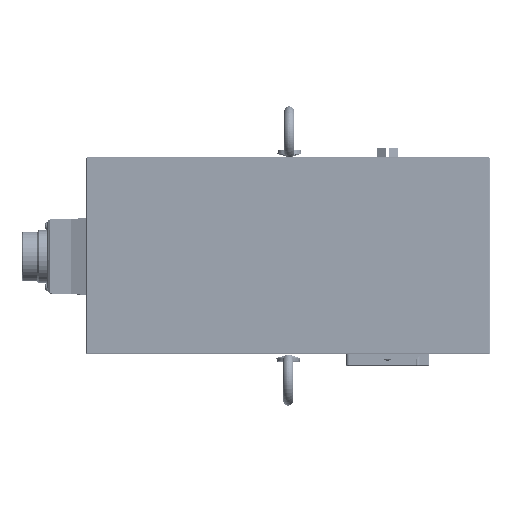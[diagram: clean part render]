
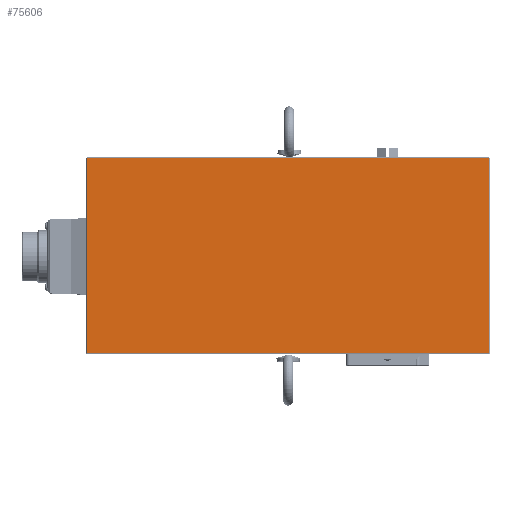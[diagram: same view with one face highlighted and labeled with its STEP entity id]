
A CAD part, top view. The second image highlights one B-rep face of the part: STEP entity #75606.
In plain terms, the highlighted planar face has unit normal (0, 0, 1).
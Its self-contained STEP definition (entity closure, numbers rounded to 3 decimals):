
#75567=CARTESIAN_POINT('',(-60.,62.5,418.));
#75568=DIRECTION('',(0.,1.,0.));
#75569=DIRECTION('',(0.,-0.,1.));
#75570=AXIS2_PLACEMENT_3D('',#75567,#75569,#75568);
#75571=PLANE('',#75570);
#75572=CARTESIAN_POINT('',(-181.5,-59.,418.));
#75573=VERTEX_POINT('',#75572);
#75574=CARTESIAN_POINT('',(61.5,-59.,418.));
#75575=VERTEX_POINT('',#75574);
#75576=CARTESIAN_POINT('',(-181.5,-59.,418.));
#75577=DIRECTION('',(1.,0.,0.));
#75578=VECTOR('',#75577,243.);
#75579=LINE('',#75576,#75578);
#75580=EDGE_CURVE('',#75573,#75575,#75579,.T.);
#75581=ORIENTED_EDGE('E5805',*,*,#75580,.T.);
#75582=CARTESIAN_POINT('',(61.5,59.,418.));
#75583=VERTEX_POINT('',#75582);
#75584=CARTESIAN_POINT('',(61.5,-59.,418.));
#75585=DIRECTION('',(0.,1.,0.));
#75586=VECTOR('',#75585,118.);
#75587=LINE('',#75584,#75586);
#75588=EDGE_CURVE('',#75575,#75583,#75587,.T.);
#75589=ORIENTED_EDGE('E5806',*,*,#75588,.T.);
#75590=CARTESIAN_POINT('',(-181.5,59.,418.));
#75591=VERTEX_POINT('',#75590);
#75592=CARTESIAN_POINT('',(61.5,59.,418.));
#75593=DIRECTION('',(-1.,0.,0.));
#75594=VECTOR('',#75593,243.);
#75595=LINE('',#75592,#75594);
#75596=EDGE_CURVE('',#75583,#75591,#75595,.T.);
#75597=ORIENTED_EDGE('E5807',*,*,#75596,.T.);
#75598=CARTESIAN_POINT('',(-181.5,59.,418.));
#75599=DIRECTION('',(0.,-1.,0.));
#75600=VECTOR('',#75599,118.);
#75601=LINE('',#75598,#75600);
#75602=EDGE_CURVE('',#75591,#75573,#75601,.T.);
#75603=ORIENTED_EDGE('E5808',*,*,#75602,.T.);
#75604=EDGE_LOOP('',(#75581,#75589,#75597,#75603));
#75605=FACE_OUTER_BOUND('',#75604,.T.);
#75606=ADVANCED_FACE('F2304',(#75605),#75571,.T.);
